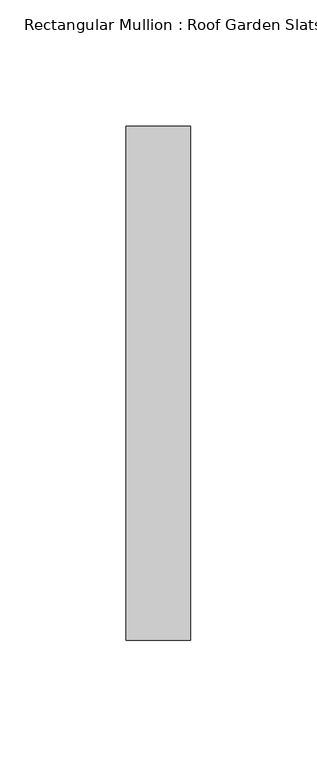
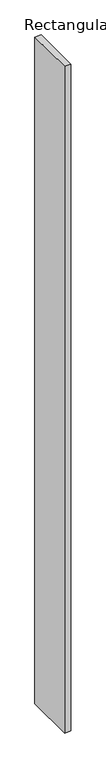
"""IFC4 building model written with IfcOpenShell, lengths in millimetres: member geometry, Rectangular Mullion : Roof Garden Slats."""

from ifc_helpers import new_model, si_unit, frame, origin, place, context, project, spatial, polyline, outline, extrude, source, transform, mapped, element, save


def rectangular_mullion_roof_garden_slats_134922ed(model_context):
    return source(origin(), model_context, "Body", "SweptSolid", [
        extrude(outline(polyline([(12.7, 139.7), (12.7, -63.5), (-12.7, -63.5), (-12.7, 139.7), (12.7, 139.7)])), frame((0.0, 0.0, -2792.4936753), z_axis=(0.0, 0.0, 1.0), x_axis=(1.0, 0.0, 0.0)), (0.0, 0.0, 1.0), 2792.4936753),
    ])


if __name__ == "__main__":
    model = new_model("IFC4")
    model_context = context("Model", 3, world=origin())
    ifc_project = project(units=[si_unit("LENGTHUNIT", "METRE", prefix="MILLI")], contexts=[model_context])
    site = spatial("IfcSite", under=ifc_project)
    building = spatial("IfcBuilding", under=site)
    placement = place(None, origin())
    rectangular_mullion_roof_garden_slats_shape = rectangular_mullion_roof_garden_slats_134922ed(model_context)
    element("IfcMember", 1, ObjectType="Rectangular Mullion : Roof Garden Slats", at=placement, inside=building, context=model_context, shape_type="MappedRepresentation", body=[
        mapped(rectangular_mullion_roof_garden_slats_shape, transform((0.0, 0.0, 0.0), x_axis=(1.0, 0.0, 0.0), y_axis=(0.0, 1.0, 0.0), z_axis=(0.0, 0.0, 1.0))),
    ])
    save(model, "model.ifc")
